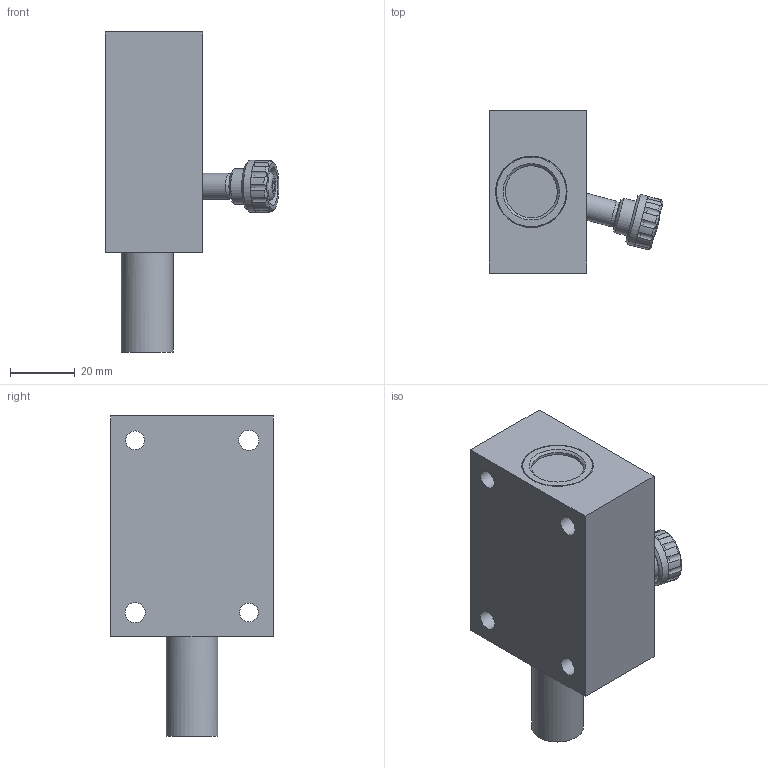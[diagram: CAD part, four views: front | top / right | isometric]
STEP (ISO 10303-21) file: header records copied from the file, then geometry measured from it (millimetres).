
FILE_DESCRIPTION(/* description */ (''),/* implementation_level */ '2;1');
FILE_NAME(/* name */ 'C:\Local Work Area\Progetti\AP\CALIBRI\30.00 GR. CENTRAGGIO CON BLOCCO\30.00.stp',/* time_stamp */ '2021-11-16T09:41:41+01:00',/* author */ ('CAD5'),/* organization */ (''),/* preprocessor_version */ 'ST-DEVELOPER v18.1',/* originating_system */ 'Autodesk Inventor 2021',/* authorisation */ '');
FILE_SCHEMA (('AUTOMOTIVE_DESIGN { 1 0 10303 214 3 1 1 }'));
Length unit declared in the file: millimetre
Products named in the file (9): 30.00; 30.01; 28.52; BOCCOLA 16-22-16; 30.00_01 SPINA; ISO 8735 - 8 x 35 - A; VOLANTINO ZIGRINATO - 130 10 150; UNI ISO 7380 - M5 x 20; UNI 5929 - M6 x 12
Assembly tree (9 placements, depth 3):
  30.00
    30.01
    28.52
    BOCCOLA 16-22-16  x2
    30.00_01 SPINA
      ISO 8735 - 8 x 35 - A
      VOLANTINO ZIGRINATO - 130 10 150
      UNI ISO 7380 - M5 x 20
    UNI 5929 - M6 x 12
Bounding box: 53.52 x 50 x 98.5 mm (x, y, z)
Volume: 94335.3 mm3; surface area: 34675.1 mm2
Topology: 8 solids, 8 shells, 153 faces, 356 edges, 228 vertices
Faces by surface type: plane 60, cylinder 58, cone 31, torus 3, sphere 1
Full cylindrical faces by diameter (mm): 4.135 x1, 4.917 x2, 5 x2, 5.3 x1, 5.333 x1, 5.8 x2, 6 x1, 6.2 x2, 7 x2, 8 x2, 9.5 x1, 10 x1, 11 x3, 13.867 x1, 14 x1, 16 x5, 22 x3
Entity records: 4840 total; most frequent: CARTESIAN_POINT 1107, DIRECTION 763, ORIENTED_EDGE 668, EDGE_CURVE 334, AXIS2_PLACEMENT_3D 309, VERTEX_POINT 216, EDGE_LOOP 178, CIRCLE 146
